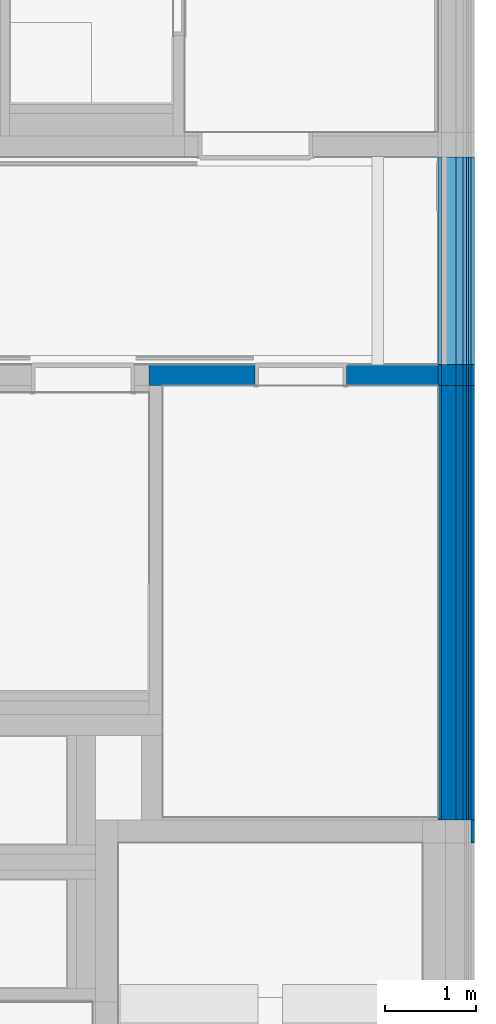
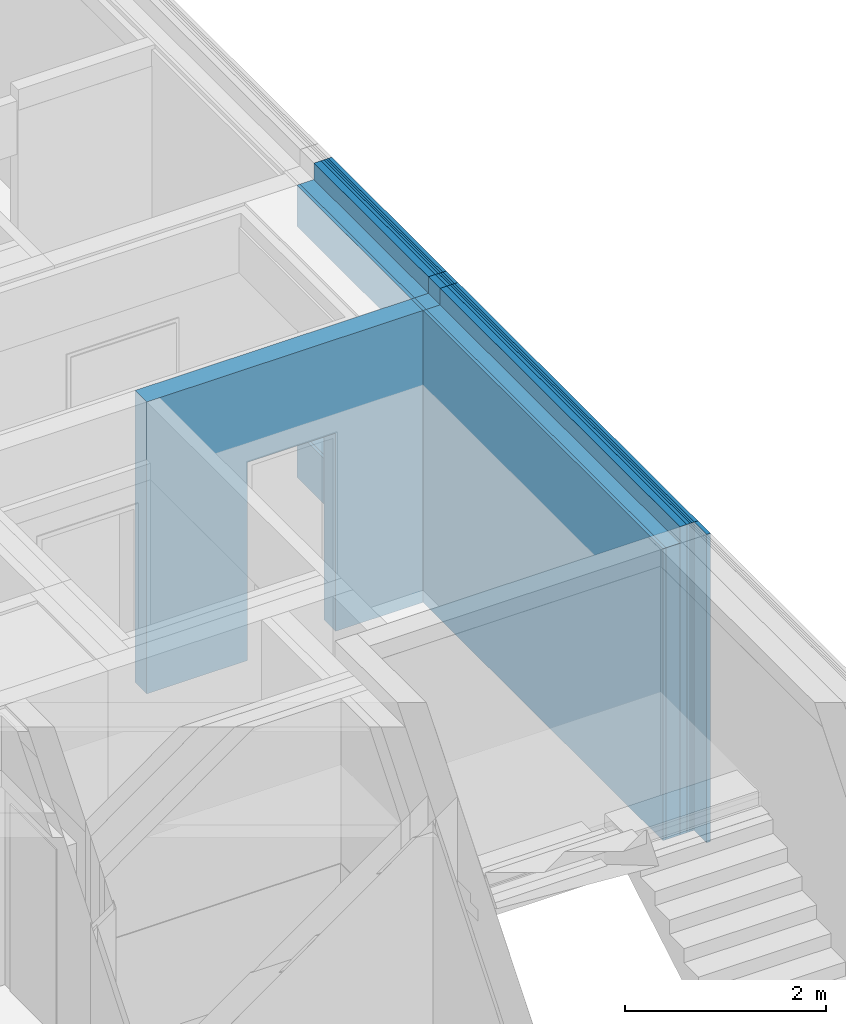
# One storey, part 53 of 222: 23 walls, 8 openings.
"""IFC4 building model written with IfcOpenShell, lengths in metres."""

from ifc_helpers import new_model, entity, si_unit, converted_unit, derived_unit, frame, frame_2d, origin, origin_with_axes, place, context, subcontext, project, spatial, polyline, rectangle, outline, extrude, material, element, save


model = new_model("IFC4")

# Units and contexts
model_context = context("Model", 3, precision=1e-05, world=origin())
body_context = subcontext(model_context, "Body", "Model", "MODEL_VIEW")
ifc_project = project(units=[si_unit("LENGTHUNIT", "METRE"), si_unit("AREAUNIT", "SQUARE_METRE"), si_unit("VOLUMEUNIT", "CUBIC_METRE"), si_unit("MASSUNIT", "GRAM", prefix="KILO"), converted_unit("PLANEANGLEUNIT", "DEGREE", entity("IfcPlaneAngleMeasure", 0.0174532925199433), si_unit("PLANEANGLEUNIT", "RADIAN"), dimensions=[0, 0, 0, 0, 0, 0, 0]), derived_unit("THERMALTRANSMITTANCEUNIT", [(si_unit("POWERUNIT", "WATT"), 1), (si_unit("THERMODYNAMICTEMPERATUREUNIT", "KELVIN"), -1), (si_unit("LENGTHUNIT", "METRE"), -2)]), derived_unit("VOLUMETRICFLOWRATEUNIT", [(si_unit("LENGTHUNIT", "METRE"), 3), (converted_unit("TIMEUNIT", "hour", entity("IfcTimeMeasure", 3600.0), si_unit("TIMEUNIT", "SECOND"), dimensions=[0, 0, 1, 0, 0, 0, 0]), -1), (si_unit("LENGTHUNIT", "METRE"), -1)])], contexts=[model_context])

# Site, building, storey
site_placement = place(None, origin())
site = spatial("IfcSite", under=ifc_project, at=site_placement, Name="Psychiatrie Neubau Wunstorf", CompositionType="ELEMENT")
building_placement = place(site_placement, origin())
building = spatial("IfcBuilding", under=site, at=building_placement, Name="Neubau H2 Stationsgebäude", CompositionType="ELEMENT")
storey_placement = place(building_placement, frame((0.0, 0.0, 3.6)))
storey = spatial("IfcBuildingStorey", under=building, at=storey_placement, Name="H2 Ebene +1", CompositionType="ELEMENT", Elevation=3.6)

# Walls
ifc_material_1 = material(Name="WA-LB")
wall_1_placement = place(storey_placement, frame((105.889, 22.8359999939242, 0.0), z_axis=(0.0, 0.0, 1.0), x_axis=(0.0, -1.0, 0.0)))
element("IfcWall", 1, at=wall_1_placement, inside=storey, material=ifc_material_1, Name="2x Gipsfaserplatte", context=body_context, shape_type="SweptSolid", body=[
    extrude(rectangle(XDim=0.231999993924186, YDim=0.036, at=frame_2d((0.115999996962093, 0.018), x_axis=(1.0, 0.0))), origin_with_axes(), (0.0, 0.0, 1.0), 3.55),
])
ifc_material_2 = material(Name="WA-HD")
wall_2_placement = place(storey_placement, frame((105.925, 22.8359999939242, 0.0), z_axis=(0.0, 0.0, 1.0), x_axis=(0.0, -1.0, 0.0)))
element("IfcWall", 2, at=wall_2_placement, inside=storey, material=ifc_material_2, Name="Holzständer + Zwischendämmung", context=body_context, shape_type="SweptSolid", body=[
    extrude(rectangle(XDim=0.231999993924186, YDim=0.16, at=frame_2d((0.115999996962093, 0.08), x_axis=(1.0, 0.0))), origin_with_axes(), (0.0, 0.0, 1.0), 3.55),
])
ifc_material_3 = material(Name="WA-DL")
wall_3_placement = place(storey_placement, frame((106.085, 22.8359999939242, 0.0), z_axis=(0.0, 0.0, 1.0), x_axis=(0.0, -1.0, 0.0)))
element("IfcWall", 3, at=wall_3_placement, inside=storey, material=ifc_material_3, Name="Staffel + Zwischendämmung", context=body_context, shape_type="SweptSolid", body=[
    extrude(rectangle(XDim=0.231999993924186, YDim=0.08, at=frame_2d((0.115999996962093, 0.04), x_axis=(1.0, 0.0))), origin_with_axes(), (0.0, 0.0, 1.0), 3.75),
])
ifc_material_4 = material(Name="WA-LB")
wall_4_placement = place(storey_placement, frame((106.165, 22.8359999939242, 0.0), z_axis=(0.0, 0.0, 1.0), x_axis=(0.0, -1.0, 0.0)))
element("IfcWall", 4, at=wall_4_placement, inside=storey, material=ifc_material_4, context=body_context, shape_type="SweptSolid", body=[
    extrude(rectangle(XDim=0.231999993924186, YDim=0.036, at=frame_2d((0.115999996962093, 0.018), x_axis=(1.0, 0.0))), origin_with_axes(), (0.0, 0.0, 1.0), 3.75),
])
ifc_material_5 = material(Name="WA-KL")
wall_5_placement = place(storey_placement, frame((106.201, 22.8359999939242, 0.0), z_axis=(0.0, 0.0, 1.0), x_axis=(0.0, -1.0, 0.0)))
element("IfcWall", 5, at=wall_5_placement, inside=storey, material=ifc_material_5, Name="Konterlattung", context=body_context, shape_type="SweptSolid", body=[
    extrude(rectangle(XDim=0.231999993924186, YDim=0.024, at=frame_2d((0.115999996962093, 0.012), x_axis=(1.0, 0.0))), origin_with_axes(), (0.0, 0.0, 1.0), 3.75),
])
ifc_material_6 = material(Name="WA-TL")
wall_6_placement = place(storey_placement, frame((106.225, 22.8359999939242, 0.0), z_axis=(0.0, 0.0, 1.0), x_axis=(0.0, -1.0, 0.0)))
element("IfcWall", 6, at=wall_6_placement, inside=storey, material=ifc_material_6, Name="Traglattung", context=body_context, shape_type="SweptSolid", body=[
    extrude(rectangle(XDim=0.231999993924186, YDim=0.024, at=frame_2d((0.115999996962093, 0.012), x_axis=(1.0, 0.0))), origin_with_axes(), (0.0, 0.0, 1.0), 3.75),
])
ifc_material_7 = material(Name="WA-HS")
wall_7_placement = place(storey_placement, frame((106.249, 22.8359999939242, 0.0), z_axis=(0.0, 0.0, 1.0), x_axis=(0.0, -1.0, 0.0)))
element("IfcWall", 7, at=wall_7_placement, inside=storey, material=ifc_material_7, Name="Holzschindel", context=body_context, shape_type="SweptSolid", body=[
    extrude(rectangle(XDim=0.231999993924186, YDim=0.042, at=frame_2d((0.115999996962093, 0.021), x_axis=(1.0, 0.0))), origin_with_axes(), (0.0, 0.0, 1.0), 3.75),
])

# Wall, opening
ifc_material_8 = material(Name="WA-LB")
wall_8_placement = place(storey_placement, frame((105.889, 25.1174999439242, 0.0), z_axis=(0.0, 0.0, 1.0), x_axis=(0.0, -1.0, 0.0)))
wall_8 = element("IfcWall", 8, at=wall_8_placement, inside=storey, material=ifc_material_8, context=body_context, shape_type="SweptSolid", body=[
    extrude(rectangle(XDim=2.28149995, YDim=0.036, at=frame_2d((1.140749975, 0.018), x_axis=(1.0, 0.0))), origin_with_axes(), (0.0, 0.0, 1.0), 3.55),
])
opening_1_placement = place(wall_8_placement, frame((0.0, 0.0, 0.55), z_axis=(0.0, 1.0, 0.0), x_axis=(0.0, 0.0, 1.0)))
element("IfcOpeningElement", 9, at=opening_1_placement, cuts=wall_8, Name="Fensteröffnung", ObjectType="Opening", context=body_context, shape_type="SweptSolid", body=[
    extrude(outline(polyline([(2.5, 2.28), (2.5, 0.0), (0.0, 0.0), (0.0, 2.28), (2.5, 2.28)])), origin_with_axes(), (0.0, 0.0, 1.0), 0.036),
])

ifc_material_9 = material(Name="WA-DL")
wall_9_placement = place(storey_placement, frame((105.925, 25.1174999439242, 0.0), z_axis=(0.0, 0.0, 1.0), x_axis=(0.0, -1.0, 0.0)))
wall_9 = element("IfcWall", 10, at=wall_9_placement, inside=storey, material=ifc_material_9, context=body_context, shape_type="SweptSolid", body=[
    extrude(rectangle(XDim=2.28149995, YDim=0.16, at=frame_2d((1.140749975, 0.08), x_axis=(1.0, 0.0))), origin_with_axes(), (0.0, 0.0, 1.0), 3.55),
])
opening_2_placement = place(wall_9_placement, frame((0.0, 0.0, 0.55), z_axis=(0.0, 1.0, 0.0), x_axis=(0.0, 0.0, 1.0)))
element("IfcOpeningElement", 11, at=opening_2_placement, cuts=wall_9, Name="Fensteröffnung", ObjectType="Opening", context=body_context, shape_type="SweptSolid", body=[
    extrude(outline(polyline([(2.5, 2.28), (2.5, 0.0), (0.0, 0.0), (0.0, 2.28), (2.5, 2.28)])), origin_with_axes(), (0.0, 0.0, 1.0), 0.16),
])

ifc_material_10 = material(Name="WA-DL")
wall_10_placement = place(storey_placement, frame((106.085, 25.1174999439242, 0.0), z_axis=(0.0, 0.0, 1.0), x_axis=(0.0, -1.0, 0.0)))
wall_10 = element("IfcWall", 12, at=wall_10_placement, inside=storey, material=ifc_material_10, context=body_context, shape_type="SweptSolid", body=[
    extrude(rectangle(XDim=2.28149995, YDim=0.08, at=frame_2d((1.140749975, 0.04), x_axis=(1.0, 0.0))), origin_with_axes(), (0.0, 0.0, 1.0), 3.75),
])
opening_3_placement = place(wall_10_placement, frame((0.0, 0.0, 0.55), z_axis=(0.0, 1.0, 0.0), x_axis=(0.0, 0.0, 1.0)))
element("IfcOpeningElement", 13, at=opening_3_placement, cuts=wall_10, Name="Fensteröffnung", ObjectType="Opening", context=body_context, shape_type="SweptSolid", body=[
    extrude(outline(polyline([(2.5, 2.28), (2.5, 0.0), (0.0, 0.0), (0.0, 2.28), (2.5, 2.28)])), origin_with_axes(), (0.0, 0.0, 1.0), 0.08),
])

ifc_material_11 = material(Name="WA-LB")
wall_11_placement = place(storey_placement, frame((106.165, 25.1174999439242, 0.0), z_axis=(0.0, 0.0, 1.0), x_axis=(0.0, -1.0, 0.0)))
wall_11 = element("IfcWall", 14, at=wall_11_placement, inside=storey, material=ifc_material_11, context=body_context, shape_type="SweptSolid", body=[
    extrude(rectangle(XDim=2.28149995, YDim=0.036, at=frame_2d((1.140749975, 0.018), x_axis=(1.0, 0.0))), origin_with_axes(), (0.0, 0.0, 1.0), 3.75),
])
opening_4_placement = place(wall_11_placement, frame((0.0, 0.0, 0.55), z_axis=(0.0, 1.0, 0.0), x_axis=(0.0, 0.0, 1.0)))
element("IfcOpeningElement", 15, at=opening_4_placement, cuts=wall_11, Name="Fensteröffnung", ObjectType="Opening", context=body_context, shape_type="SweptSolid", body=[
    extrude(outline(polyline([(2.5, 2.28), (2.5, 0.0), (0.0, 0.0), (0.0, 2.28), (2.5, 2.28)])), origin_with_axes(), (0.0, 0.0, 1.0), 0.036),
])

ifc_material_12 = material(Name="WA-KL")
wall_12_placement = place(storey_placement, frame((106.201, 25.1174999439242, 0.0), z_axis=(0.0, 0.0, 1.0), x_axis=(0.0, -1.0, 0.0)))
wall_12 = element("IfcWall", 16, at=wall_12_placement, inside=storey, material=ifc_material_12, context=body_context, shape_type="SweptSolid", body=[
    extrude(rectangle(XDim=2.28149995, YDim=0.024, at=frame_2d((1.140749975, 0.012), x_axis=(1.0, 0.0))), origin_with_axes(), (0.0, 0.0, 1.0), 3.75),
])
opening_5_placement = place(wall_12_placement, frame((0.0, 0.0, 0.55), z_axis=(0.0, 1.0, 0.0), x_axis=(0.0, 0.0, 1.0)))
element("IfcOpeningElement", 17, at=opening_5_placement, cuts=wall_12, Name="Fensteröffnung", ObjectType="Opening", context=body_context, shape_type="SweptSolid", body=[
    extrude(outline(polyline([(2.5, 2.28), (2.5, 0.0), (0.0, 0.0), (0.0, 2.28), (2.5, 2.28)])), origin_with_axes(), (0.0, 0.0, 1.0), 0.024),
])

ifc_material_13 = material(Name="WA-TL")
wall_13_placement = place(storey_placement, frame((106.225, 25.1174999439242, 0.0), z_axis=(0.0, 0.0, 1.0), x_axis=(0.0, -1.0, 0.0)))
wall_13 = element("IfcWall", 18, at=wall_13_placement, inside=storey, material=ifc_material_13, context=body_context, shape_type="SweptSolid", body=[
    extrude(rectangle(XDim=2.28149995, YDim=0.024, at=frame_2d((1.140749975, 0.012), x_axis=(1.0, 0.0))), origin_with_axes(), (0.0, 0.0, 1.0), 3.75),
])
opening_6_placement = place(wall_13_placement, frame((0.0, 0.0, 0.55), z_axis=(0.0, 1.0, 0.0), x_axis=(0.0, 0.0, 1.0)))
element("IfcOpeningElement", 19, at=opening_6_placement, cuts=wall_13, Name="Fensteröffnung", ObjectType="Opening", context=body_context, shape_type="SweptSolid", body=[
    extrude(outline(polyline([(2.5, 2.28), (2.5, 0.0), (0.0, 0.0), (0.0, 2.28), (2.5, 2.28)])), origin_with_axes(), (0.0, 0.0, 1.0), 0.024),
])

ifc_material_14 = material(Name="WA-HS")
wall_14_placement = place(storey_placement, frame((106.249, 25.1174999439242, 0.0), z_axis=(0.0, 0.0, 1.0), x_axis=(0.0, -1.0, 0.0)))
wall_14 = element("IfcWall", 20, at=wall_14_placement, inside=storey, material=ifc_material_14, context=body_context, shape_type="SweptSolid", body=[
    extrude(rectangle(XDim=2.28149995, YDim=0.042, at=frame_2d((1.140749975, 0.021), x_axis=(1.0, 0.0))), origin_with_axes(), (0.0, 0.0, 1.0), 3.75),
])
opening_7_placement = place(wall_14_placement, frame((0.0, 0.0, 0.55), z_axis=(0.0, 1.0, 0.0), x_axis=(0.0, 0.0, 1.0)))
element("IfcOpeningElement", 21, at=opening_7_placement, cuts=wall_14, Name="Fensteröffnung", ObjectType="Opening", context=body_context, shape_type="SweptSolid", body=[
    extrude(outline(polyline([(2.5, 2.28), (2.5, 0.0), (0.0, 0.0), (0.0, 2.28), (2.5, 2.28)])), origin_with_axes(), (0.0, 0.0, 1.0), 0.042),
])

# Walls
ifc_material_15 = material(Name="WA-LB")
wall_15_placement = place(storey_placement, frame((105.889, 22.604, 0.0), z_axis=(0.0, 0.0, 1.0), x_axis=(0.0, -1.0, 0.0)))
element("IfcWall", 22, at=wall_15_placement, inside=storey, material=ifc_material_15, context=body_context, shape_type="SweptSolid", body=[
    extrude(rectangle(XDim=4.77899999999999, YDim=0.036, at=frame_2d((2.38949999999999, 0.018), x_axis=(1.0, 0.0))), origin_with_axes(), (0.0, 0.0, 1.0), 3.55),
])
ifc_material_16 = material(Name="WA-HD")
wall_16_placement = place(storey_placement, frame((105.925, 22.604, 0.0), z_axis=(0.0, 0.0, 1.0), x_axis=(0.0, -1.0, 0.0)))
element("IfcWall", 23, at=wall_16_placement, inside=storey, material=ifc_material_16, context=body_context, shape_type="SweptSolid", body=[
    extrude(rectangle(XDim=4.77899999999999, YDim=0.16, at=frame_2d((2.38949999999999, 0.08), x_axis=(1.0, 0.0))), origin_with_axes(), (0.0, 0.0, 1.0), 3.55),
])
ifc_material_17 = material(Name="WA-DL")
wall_17_placement = place(storey_placement, frame((106.085, 22.604, 0.0), z_axis=(0.0, 0.0, 1.0), x_axis=(0.0, -1.0, 0.0)))
element("IfcWall", 24, at=wall_17_placement, inside=storey, material=ifc_material_17, context=body_context, shape_type="SweptSolid", body=[
    extrude(rectangle(XDim=4.77899999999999, YDim=0.08, at=frame_2d((2.38949999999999, 0.04), x_axis=(1.0, 0.0))), origin_with_axes(), (0.0, 0.0, 1.0), 3.75),
])
ifc_material_18 = material(Name="WA-LB")
wall_18_placement = place(storey_placement, frame((106.165, 22.604, 0.0), z_axis=(0.0, 0.0, 1.0), x_axis=(0.0, -1.0, 0.0)))
element("IfcWall", 25, at=wall_18_placement, inside=storey, material=ifc_material_18, context=body_context, shape_type="SweptSolid", body=[
    extrude(rectangle(XDim=4.77899999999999, YDim=0.036, at=frame_2d((2.38949999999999, 0.018), x_axis=(1.0, 0.0))), origin_with_axes(), (0.0, 0.0, 1.0), 3.75),
])
ifc_material_19 = material(Name="WA-KL")
wall_19_placement = place(storey_placement, frame((106.201, 22.604, 0.0), z_axis=(0.0, 0.0, 1.0), x_axis=(0.0, -1.0, 0.0)))
element("IfcWall", 26, at=wall_19_placement, inside=storey, material=ifc_material_19, context=body_context, shape_type="SweptSolid", body=[
    extrude(rectangle(XDim=4.77899999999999, YDim=0.024, at=frame_2d((2.38949999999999, 0.012), x_axis=(1.0, 0.0))), origin_with_axes(), (0.0, 0.0, 1.0), 3.75),
])
ifc_material_20 = material(Name="WA-TL")
wall_20_placement = place(storey_placement, frame((106.225, 22.604, 0.0), z_axis=(0.0, 0.0, 1.0), x_axis=(0.0, -1.0, 0.0)))
element("IfcWall", 27, at=wall_20_placement, inside=storey, material=ifc_material_20, context=body_context, shape_type="SweptSolid", body=[
    extrude(rectangle(XDim=4.77899999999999, YDim=0.024, at=frame_2d((2.38949999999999, 0.012), x_axis=(1.0, 0.0))), origin_with_axes(), (0.0, 0.0, 1.0), 3.75),
])
ifc_material_21 = material(Name="WA-HS")
wall_21_placement = place(storey_placement, frame((106.249, 22.604, 0.0), z_axis=(0.0, 0.0, 1.0), x_axis=(0.0, -1.0, 0.0)))
element("IfcWall", 28, at=wall_21_placement, inside=storey, material=ifc_material_21, context=body_context, shape_type="SweptSolid", body=[
    extrude(rectangle(XDim=4.77899999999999, YDim=0.042, at=frame_2d((2.38949999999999, 0.021), x_axis=(1.0, 0.0))), origin_with_axes(), (0.0, 0.0, 1.0), 3.75),
])
ifc_material_22 = material(Name="WA-HS")
wall_22_placement = place(storey_placement, frame((106.249, 17.825, 0.0), z_axis=(0.0, 0.0, 1.0), x_axis=(0.0, -1.0, 0.0)))
element("IfcWall", 29, at=wall_22_placement, inside=storey, material=ifc_material_22, context=body_context, shape_type="SweptSolid", body=[
    extrude(rectangle(XDim=0.25, YDim=0.042, at=frame_2d((0.125, 0.021), x_axis=(1.0, 0.0))), origin_with_axes(), (0.0, 0.0, 1.0), 3.75),
])

# Wall, opening
ifc_material_23 = material(Name="WI-HW 60")
wall_23_placement = place(storey_placement, frame((102.710993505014, 22.6040000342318, 0.0), z_axis=(0.0, 0.0, 1.0), x_axis=(1.0, -1.07714757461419e-08, 0.0)))
wall_23 = element("IfcWall", 30, at=wall_23_placement, inside=storey, material=ifc_material_23, context=body_context, shape_type="SweptSolid", body=[
    extrude(outline(polyline([(0.150006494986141, 0.0), (3.17800649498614, 3.42318198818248e-08), (3.17800649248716, 0.23200003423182), (0.0, 0.232), (0.0, 3.42318198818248e-08), (0.150006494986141, 0.0)])), frame((0.0, -3.42318198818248e-08, 0.0), z_axis=(0.0, 0.0, 1.0), x_axis=(1.0, 0.0, 0.0)), (0.0, 0.0, 1.0), 3.55),
])
opening_8_placement = place(wall_23_placement, frame((1.16155181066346, -2.17201927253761e-08, 0.0), z_axis=(-1.07714760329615e-08, 1.0, 0.0), x_axis=(0.0, 0.0, 1.0)))
element("IfcOpeningElement", 31, at=opening_8_placement, cuts=wall_23, Name="SMT", ObjectType="Opening", context=body_context, shape_type="SweptSolid", body=[
    extrude(outline(polyline([(2.41, 1.01), (2.41, 0.0), (0.0, 0.0), (0.0, 1.01), (2.41, 1.01)])), origin_with_axes(), (0.0, 0.0, 1.0), 0.232),
])

save(model, "model.ifc")
